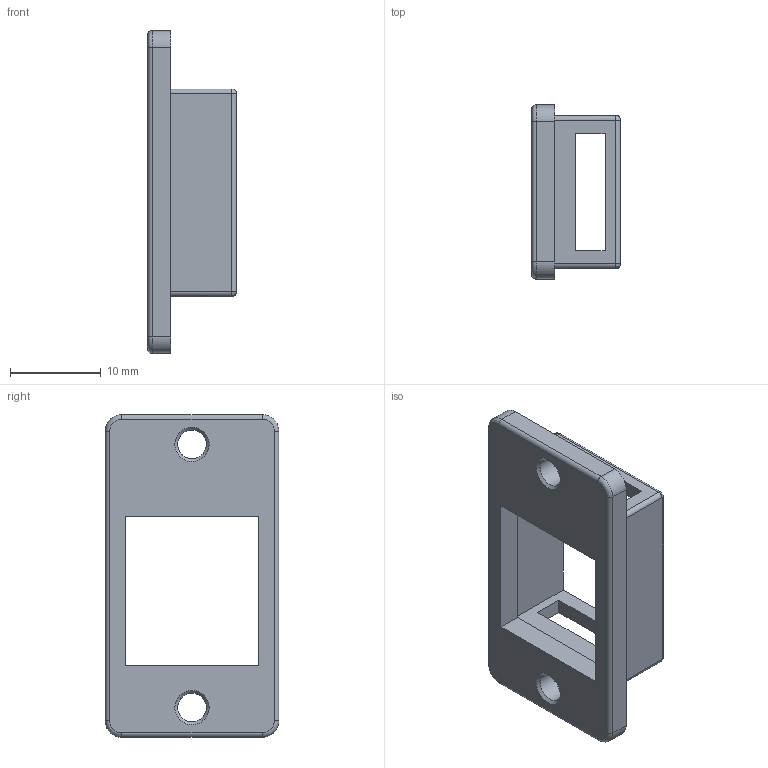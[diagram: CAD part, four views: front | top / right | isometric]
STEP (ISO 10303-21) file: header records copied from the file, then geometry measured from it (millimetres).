
FILE_DESCRIPTION( ('This file contains a STEP AP42 implementation' ,'as created by ZW3D STEP Interface translator.') ,'2;1' );
FILE_NAME( 'TB-018_SY-FG01_SD.stp' ,'26 320. 94943', (''), ('ZWCAD Software Co.'), 'Version 1.0', 'ZW3D to STEP translator', '' );
FILE_SCHEMA(('AUTOMOTIVE_DESIGN'));
Length unit declared in the file: millimetre
Products named in the file (2): 0; TB-018_SY-FG01_SD
Bounding box: 9.8 x 19.12 x 35.5 mm (x, y, z)
Volume: 1536.1 mm3; surface area: 2267.8 mm2
Topology: 1 solids, 1 shells, 57 faces, 142 edges, 88 vertices
Faces by surface type: bspline 57
Entity records: 3083 total; most frequent: CARTESIAN_POINT 2111, ORIENTED_EDGE 284, B_SPLINE_CURVE_WITH_KNOTS 142, EDGE_CURVE 142, VERTEX_POINT 88, EDGE_LOOP 68, FACE_OUTER_BOUND 57, ADVANCED_FACE 57
